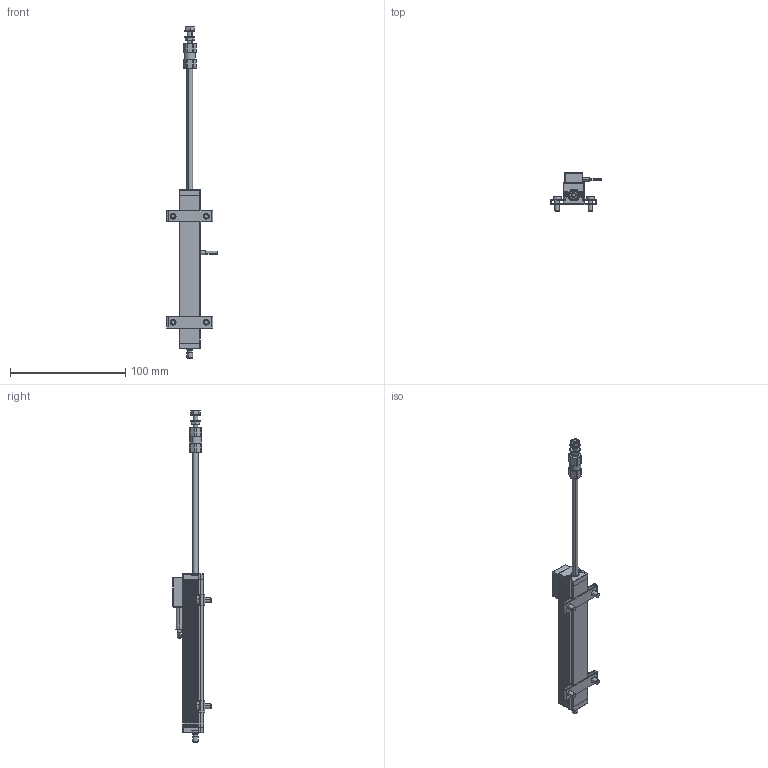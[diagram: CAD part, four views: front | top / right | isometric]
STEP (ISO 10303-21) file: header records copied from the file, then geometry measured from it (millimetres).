
FILE_DESCRIPTION (( 'STEP AP214' ), '1' );
FILE_NAME ('T_100.STEP', '2008-11-05T10:08:53', ( 'novotechnik' ), ( 'novotechnik' ), 'SwSTEP 2.0', 'SolidWorks 2008', '' );
FILE_SCHEMA (( 'AUTOMOTIVE_DESIGN' ));
Length unit declared in the file: millimetre
Products named in the file (4): T-Serie_Klammer_Standard; T_TS_100_-_Schubstange_Standard; T_100_-_Gehaeuse_Standard; T_100
Assembly tree (4 placements, depth 2):
  T_100
    T-Serie_Klammer_Standard  x2
    T_100_-_Gehaeuse_Standard
    T_TS_100_-_Schubstange_Standard
Bounding box: 44.08 x 33.2 x 288 mm (x, y, z)
Volume: 55090.6 mm3; surface area: 29689.6 mm2
Topology: 29 solids, 29 shells, 1154 faces, 2773 edges, 1706 vertices
Faces by surface type: cylinder 550, plane 324, cone 154, bspline 122, torus 4
Entity records: 47142 total; most frequent: CARTESIAN_POINT 9564, DIRECTION 5548, ORIENTED_EDGE 5190, EDGE_CURVE 2595, AXIS2_PLACEMENT_3D 2206, VERTEX_POINT 1602, CIRCLE 1233, EDGE_LOOP 1169
